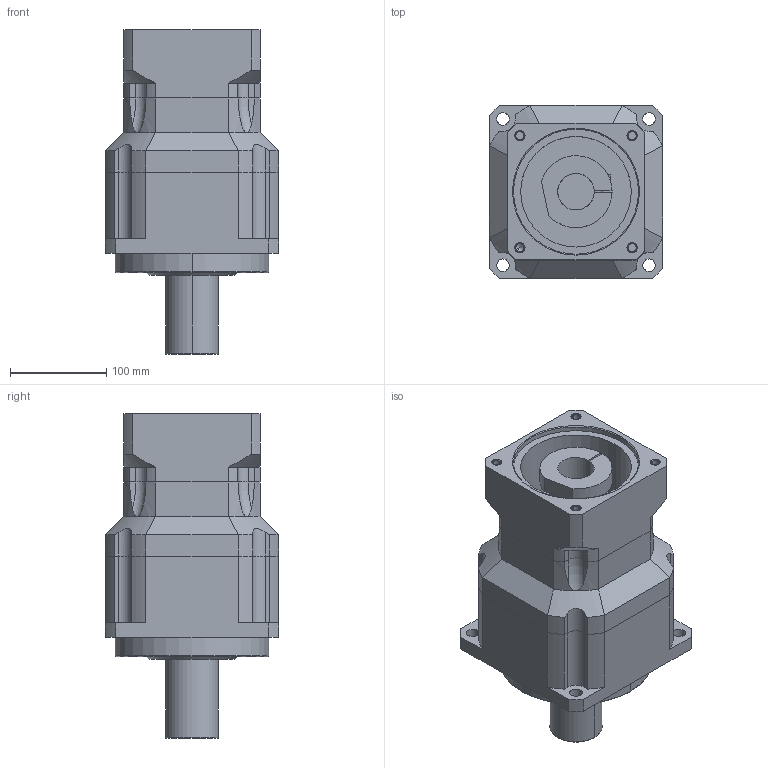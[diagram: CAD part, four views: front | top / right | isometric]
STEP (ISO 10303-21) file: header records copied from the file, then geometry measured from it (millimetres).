
FILE_DESCRIPTION((''),'2;1');
FILE_NAME('AB1802-P4050102_ASM','2005-07-20T',('jacky'),(''),'PRO/ENGINEER BY PARAMETRIC TECHNOLOGY CORPORATION, 2001280','PRO/ENGINEER BY PARAMETRIC TECHNOLOGY CORPORATION, 2001280','');
FILE_SCHEMA(('CONFIG_CONTROL_DESIGN'));
Length unit declared in the file: millimetre
Products named in the file (4): AB1802; AB1802-1; P4050102; AB1802-P4050102_ASM
Assembly tree (3 placements, depth 2):
  AB1802-P4050102_ASM
    AB1802
    AB1802-1
    P4050102
Bounding box: 180 x 180 x 337.5 mm (x, y, z)
Volume: 5589439.9 mm3; surface area: 350436.3 mm2
Topology: 3 solids, 7 shells, 218 faces, 557 edges, 359 vertices
Faces by surface type: cylinder 95, plane 85, cone 24, torus 10, bspline 4
Entity records: 7116 total; most frequent: CARTESIAN_POINT 1568, DIRECTION 1203, ORIENTED_EDGE 1094, EDGE_CURVE 555, AXIS2_PLACEMENT_3D 462, VERTEX_POINT 359, VECTOR 279, LINE 279
